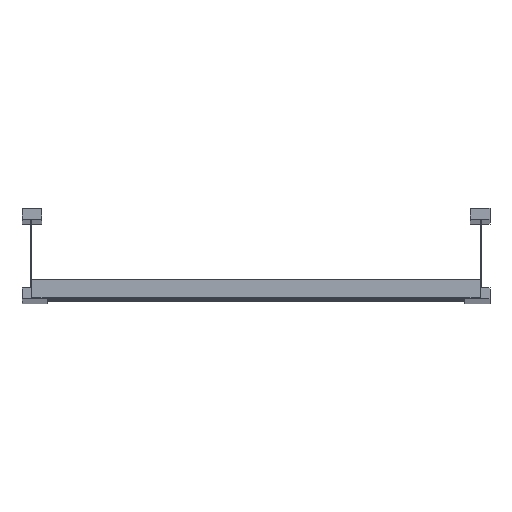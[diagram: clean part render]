
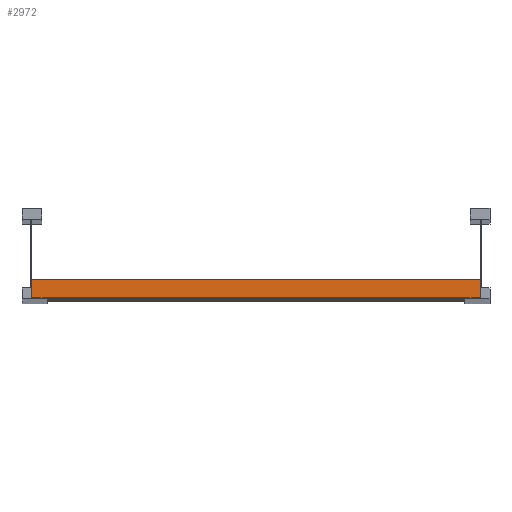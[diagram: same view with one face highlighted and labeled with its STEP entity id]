
A CAD part, top view. The second image highlights one B-rep face of the part: STEP entity #2972.
In plain terms, the highlighted planar face has unit normal (0, 0, 1).
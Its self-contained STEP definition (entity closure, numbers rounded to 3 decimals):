
#507 = VECTOR ( 'NONE', #8561, 1000. ) ;
#613 = LINE ( 'NONE', #2503, #11415 ) ;
#985 = EDGE_CURVE ( 'NONE', #6067, #9636, #613, .T. ) ;
#2503 = CARTESIAN_POINT ( 'NONE',  ( 248.5, 20., 20.25 ) ) ;
#2598 = CARTESIAN_POINT ( 'NONE',  ( 248.5, 20., 20.25 ) ) ;
#2972 = ADVANCED_FACE ( 'NONE', ( #7128 ), #4539, .F. ) ;
#2991 = LINE ( 'NONE', #4982, #507 ) ;
#3660 = EDGE_LOOP ( 'NONE', ( #9077, #5854, #3726, #9473 ) ) ;
#3726 = ORIENTED_EDGE ( 'NONE', *, *, #985, .F. ) ;
#3817 = DIRECTION ( 'NONE',  ( -1., 0., 0. ) ) ;
#4057 = EDGE_CURVE ( 'NONE', #9636, #5230, #8106, .T. ) ;
#4539 = PLANE ( 'NONE',  #5221 ) ;
#4684 = CARTESIAN_POINT ( 'NONE',  ( 248.5, 20., 20.25 ) ) ;
#4982 = CARTESIAN_POINT ( 'NONE',  ( 248.5, 20., 20.25 ) ) ;
#5016 = CARTESIAN_POINT ( 'NONE',  ( -248.5, 0., 20.25 ) ) ;
#5221 = AXIS2_PLACEMENT_3D ( 'NONE', #2598, #9711, #8116 ) ;
#5230 = VERTEX_POINT ( 'NONE', #5016 ) ;
#5854 = ORIENTED_EDGE ( 'NONE', *, *, #4057, .F. ) ;
#5989 = DIRECTION ( 'NONE',  ( 0., -1., 0. ) ) ;
#6058 = VERTEX_POINT ( 'NONE', #10383 ) ;
#6067 = VERTEX_POINT ( 'NONE', #4684 ) ;
#6157 = LINE ( 'NONE', #11335, #6894 ) ;
#6346 = CARTESIAN_POINT ( 'NONE',  ( 248.5, 0., 20.25 ) ) ;
#6464 = CARTESIAN_POINT ( 'NONE',  ( 248.5, 0., 20.25 ) ) ;
#6805 = DIRECTION ( 'NONE',  ( 0., -1., 0. ) ) ;
#6894 = VECTOR ( 'NONE', #5989, 1000. ) ;
#7128 = FACE_OUTER_BOUND ( 'NONE', #3660, .T. ) ;
#8106 = LINE ( 'NONE', #6346, #8800 ) ;
#8116 = DIRECTION ( 'NONE',  ( 0., 1., 0. ) ) ;
#8561 = DIRECTION ( 'NONE',  ( -1., 0., 0. ) ) ;
#8714 = EDGE_CURVE ( 'NONE', #6067, #6058, #2991, .T. ) ;
#8784 = EDGE_CURVE ( 'NONE', #6058, #5230, #6157, .T. ) ;
#8800 = VECTOR ( 'NONE', #3817, 1000. ) ;
#9077 = ORIENTED_EDGE ( 'NONE', *, *, #8784, .T. ) ;
#9473 = ORIENTED_EDGE ( 'NONE', *, *, #8714, .T. ) ;
#9636 = VERTEX_POINT ( 'NONE', #6464 ) ;
#9711 = DIRECTION ( 'NONE',  ( 0., 0., -1. ) ) ;
#10383 = CARTESIAN_POINT ( 'NONE',  ( -248.5, 20., 20.25 ) ) ;
#11335 = CARTESIAN_POINT ( 'NONE',  ( -248.5, 20., 20.25 ) ) ;
#11415 = VECTOR ( 'NONE', #6805, 1000. ) ;
